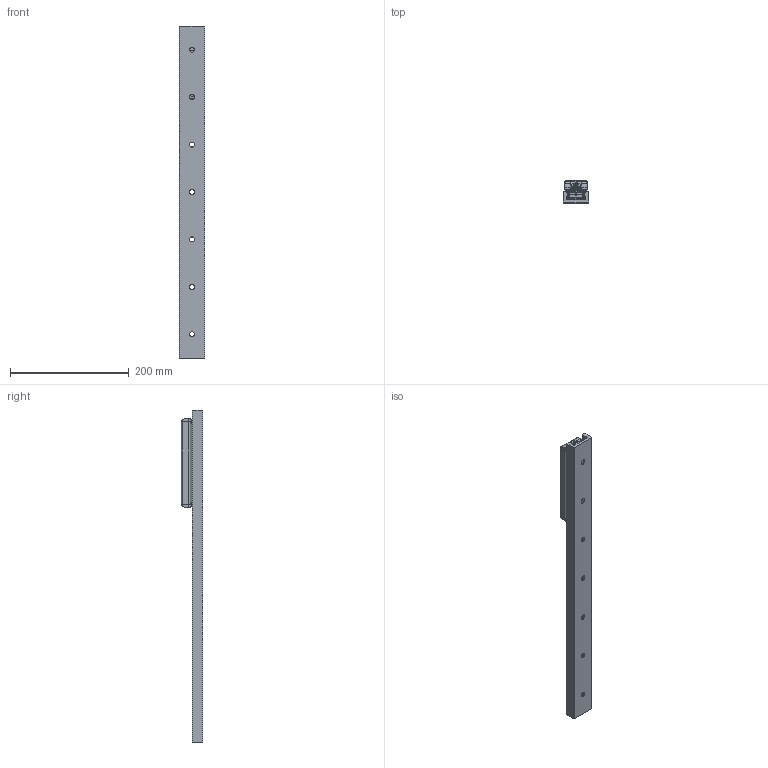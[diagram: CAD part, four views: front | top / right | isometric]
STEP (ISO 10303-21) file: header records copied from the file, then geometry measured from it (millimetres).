
FILE_DESCRIPTION( ( 'STEP AP214' ), '1' );
FILE_NAME( 'p:/temp/worker_15/temp/exporttempdir_1008_486_E2Pme/format_2/TGV-00560_1_RV43G-3.stp', '2021-05-14T18:59:36', ( 'License CC BY-ND 4.0' ), ( 'CADENAS' ), ' ', 'PARTsolutions', ' ' );
FILE_SCHEMA( ( 'AUTOMOTIVE_DESIGN { 1 0 10303 214 1 1 1 1 }' ) );
Length unit declared in the file: millimetre
Products named in the file (6): TGV-00560/1/RV43G-3; _TGV43-0560-(3-1); _RVG43-3-slider; _RGNV43R; _RGAV43R; _WR43G-01
Assembly tree (7 placements, depth 2):
  TGV-00560/1/RV43G-3
    _TGV43-0560-(3-1)
    _RVG43-3-slider
    _RGNV43R  x2
    _RGAV43R
    _WR43G-01  x2
Bounding box: 43 x 37 x 560 mm (x, y, z)
Volume: 326031.2 mm3; surface area: 129753 mm2
Topology: 7 solids, 7 shells, 1055 faces, 2759 edges, 1800 vertices
Faces by surface type: plane 663, cylinder 303, cone 46, bspline 34, torus 9
Full cylindrical faces by diameter (mm): 1.76 x4, 3 x8, 6 x4, 6.647 x4, 6.8 x3, 8 x3, 8.5 x7, 11 x11, 15 x6, 15.5 x1, 18.98 x2, 19 x1, 31.4 x6
Entity records: 24983 total; most frequent: CARTESIAN_POINT 3982, DIRECTION 3337, ORIENTED_EDGE 3106, EDGE_CURVE 1553, AXIS2_PLACEMENT_3D 1265, VERTEX_POINT 1072, EDGE_LOOP 839, LINE 807
